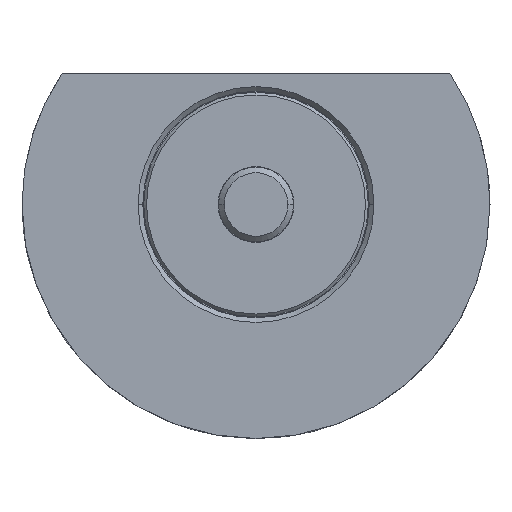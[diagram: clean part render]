
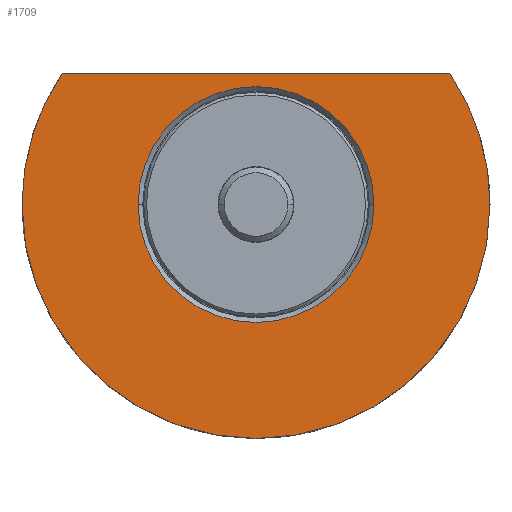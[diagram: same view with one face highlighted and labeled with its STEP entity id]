
A CAD part, front view. The second image highlights one B-rep face of the part: STEP entity #1709.
In plain terms, the highlighted planar face has unit normal (0, -1, 0).
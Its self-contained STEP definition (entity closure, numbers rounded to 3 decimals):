
#145 = FACE_BOUND ( 'NONE', #1717, .T. ) ;
#163 = VERTEX_POINT ( 'NONE', #778 ) ;
#197 = DIRECTION ( 'NONE',  ( 0., 1., 0. ) ) ;
#231 = EDGE_LOOP ( 'NONE', ( #1928, #408, #1881, #2231 ) ) ;
#329 = CIRCLE ( 'NONE', #825, 25. ) ;
#408 = ORIENTED_EDGE ( 'NONE', *, *, #565, .T. ) ;
#420 = EDGE_CURVE ( 'NONE', #1655, #2540, #449, .T. ) ;
#427 = VERTEX_POINT ( 'NONE', #2549 ) ;
#449 = CIRCLE ( 'NONE', #1032, 12.6 ) ;
#452 = CIRCLE ( 'NONE', #828, 12.6 ) ;
#505 = DIRECTION ( 'NONE',  ( -1., 0., 0. ) ) ;
#565 = EDGE_CURVE ( 'NONE', #1851, #946, #1232, .T. ) ;
#574 = CARTESIAN_POINT ( 'NONE',  ( 12.6, -12., 0. ) ) ;
#641 = DIRECTION ( 'NONE',  ( -1., 0., 0. ) ) ;
#648 = CARTESIAN_POINT ( 'NONE',  ( 0., -12., 0. ) ) ;
#732 = PLANE ( 'NONE',  #1649 ) ;
#751 = CARTESIAN_POINT ( 'NONE',  ( 0., -12., 0. ) ) ;
#778 = CARTESIAN_POINT ( 'NONE',  ( 25., -12., 0. ) ) ;
#825 = AXIS2_PLACEMENT_3D ( 'NONE', #1540, #197, #981 ) ;
#828 = AXIS2_PLACEMENT_3D ( 'NONE', #648, #1041, #2404 ) ;
#830 = CIRCLE ( 'NONE', #1406, 25. ) ;
#841 = EDGE_CURVE ( 'NONE', #1851, #163, #329, .T. ) ;
#897 = DIRECTION ( 'NONE',  ( -1., 0., 0. ) ) ;
#946 = VERTEX_POINT ( 'NONE', #1217 ) ;
#970 = CARTESIAN_POINT ( 'NONE',  ( 20.712, -12., 14. ) ) ;
#981 = DIRECTION ( 'NONE',  ( -1., 0., 0. ) ) ;
#1032 = AXIS2_PLACEMENT_3D ( 'NONE', #751, #2359, #1392 ) ;
#1041 = DIRECTION ( 'NONE',  ( 0., 1., 0. ) ) ;
#1050 = ORIENTED_EDGE ( 'NONE', *, *, #1353, .T. ) ;
#1124 = DIRECTION ( 'NONE',  ( 0., 1., 0. ) ) ;
#1138 = CARTESIAN_POINT ( 'NONE',  ( -12.6, -12., 0. ) ) ;
#1151 = EDGE_CURVE ( 'NONE', #427, #946, #1807, .T. ) ;
#1217 = CARTESIAN_POINT ( 'NONE',  ( -20.712, -12., 14. ) ) ;
#1232 = LINE ( 'NONE', #2410, #1563 ) ;
#1353 = EDGE_CURVE ( 'NONE', #2540, #1655, #452, .T. ) ;
#1392 = DIRECTION ( 'NONE',  ( -1., 0., 0. ) ) ;
#1406 = AXIS2_PLACEMENT_3D ( 'NONE', #2298, #1124, #897 ) ;
#1419 = CARTESIAN_POINT ( 'NONE',  ( -12.6, -12., 0. ) ) ;
#1540 = CARTESIAN_POINT ( 'NONE',  ( 0., -12., 0. ) ) ;
#1563 = VECTOR ( 'NONE', #641, 1000. ) ;
#1602 = AXIS2_PLACEMENT_3D ( 'NONE', #1895, #2446, #505 ) ;
#1612 = ORIENTED_EDGE ( 'NONE', *, *, #420, .T. ) ;
#1649 = AXIS2_PLACEMENT_3D ( 'NONE', #1138, #1870, #1858 ) ;
#1655 = VERTEX_POINT ( 'NONE', #1419 ) ;
#1709 = ADVANCED_FACE ( 'NONE', ( #145, #2287 ), #732, .T. ) ;
#1717 = EDGE_LOOP ( 'NONE', ( #1050, #1612 ) ) ;
#1755 = EDGE_CURVE ( 'NONE', #163, #427, #830, .T. ) ;
#1807 = CIRCLE ( 'NONE', #1602, 25. ) ;
#1851 = VERTEX_POINT ( 'NONE', #970 ) ;
#1858 = DIRECTION ( 'NONE',  ( 1., 0., 0. ) ) ;
#1870 = DIRECTION ( 'NONE',  ( 0., -1., 0. ) ) ;
#1881 = ORIENTED_EDGE ( 'NONE', *, *, #1151, .F. ) ;
#1895 = CARTESIAN_POINT ( 'NONE',  ( 0., -12., 0. ) ) ;
#1928 = ORIENTED_EDGE ( 'NONE', *, *, #841, .F. ) ;
#2231 = ORIENTED_EDGE ( 'NONE', *, *, #1755, .F. ) ;
#2287 = FACE_OUTER_BOUND ( 'NONE', #231, .T. ) ;
#2298 = CARTESIAN_POINT ( 'NONE',  ( 0., -12., 0. ) ) ;
#2359 = DIRECTION ( 'NONE',  ( 0., 1., 0. ) ) ;
#2404 = DIRECTION ( 'NONE',  ( -1., 0., 0. ) ) ;
#2410 = CARTESIAN_POINT ( 'NONE',  ( -12.6, -12., 14. ) ) ;
#2446 = DIRECTION ( 'NONE',  ( 0., 1., 0. ) ) ;
#2540 = VERTEX_POINT ( 'NONE', #574 ) ;
#2549 = CARTESIAN_POINT ( 'NONE',  ( -25., -12., 0. ) ) ;
